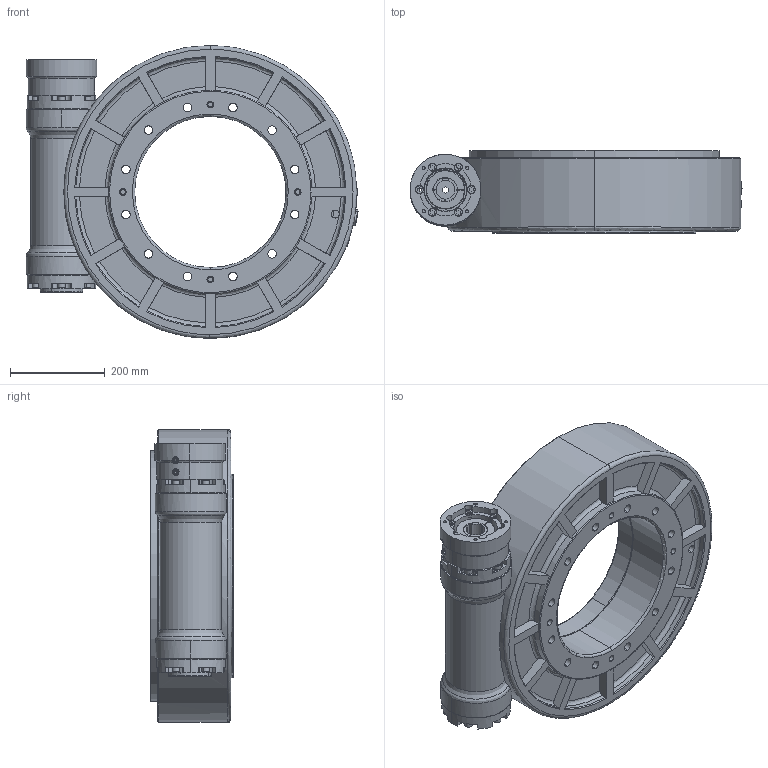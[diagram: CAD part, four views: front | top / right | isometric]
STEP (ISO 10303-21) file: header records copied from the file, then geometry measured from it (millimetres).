
FILE_DESCRIPTION (( 'STEP AP214' ), '1' );
FILE_NAME ('HC315HP-60R-110130-M8-32.STEP', '2022-06-25T02:09:17', ( 'Windows User' ), ( 'P R C' ), 'SwSTEP 2.0', 'SolidWorks 2020', '' );
FILE_SCHEMA (( 'AUTOMOTIVE_DESIGN' ));
Length unit declared in the file: millimetre
Products named in the file (1): HC315HP-60R-110130-M8-32
Bounding box: 702.56 x 175 x 620 mm (x, y, z)
Surface area: 1634294.9 mm2 (no closed solid volume)
Topology: 0 solids, 62 shells, 829 faces, 2569 edges, 1788 vertices
Faces by surface type: cylinder 377, plane 324, torus 53, bspline 51, cone 24
Entity records: 50526 total; most frequent: CARTESIAN_POINT 18421, DIRECTION 4902, ORIENTED_EDGE 4401, EDGE_CURVE 2567, AXIS2_PLACEMENT_3D 1873, VERTEX_POINT 1788, VECTOR 1156, LINE 1156
